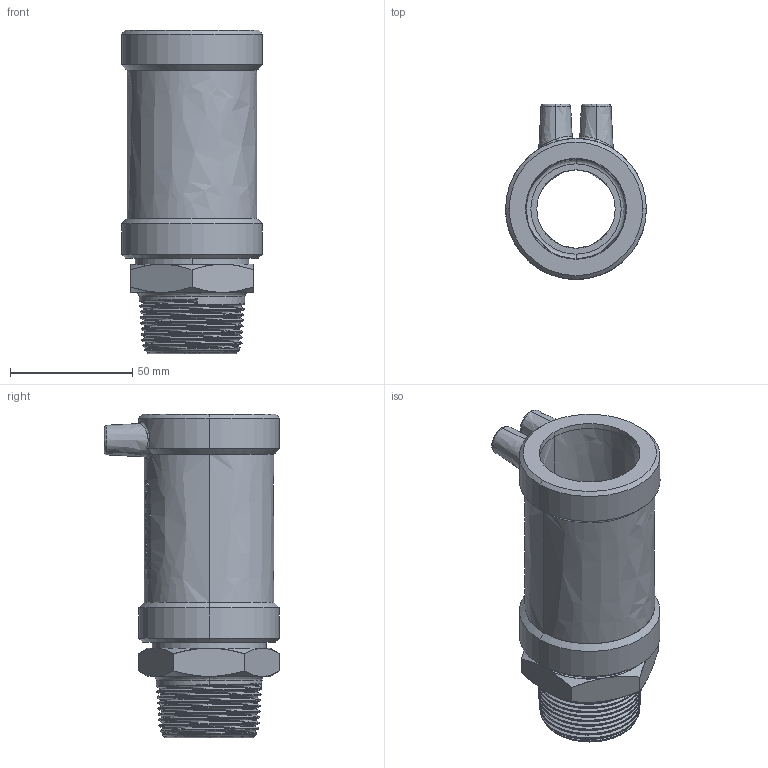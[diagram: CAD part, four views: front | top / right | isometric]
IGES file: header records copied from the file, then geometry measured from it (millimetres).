
Start section:  PTC IGES file: ustn_d40_1_1-4_01.igs
Global section: file name: ustn_d40_1_1-4_01.igs; native system: Pro/ENGINEER by Parametric Technology Corporation; preprocessor: 2011490; author: mtunjic; organization: Unknown; date: 20130823.111036; units: millimetre
Bounding box: 57.5 x 71.67 x 132 mm (x, y, z)
Surface area: 45225.3 mm2 (no closed solid volume)
Topology: 0 solids, 0 shells, 244 faces, 1242 edges, 1242 vertices
Faces by surface type: bspline 244
